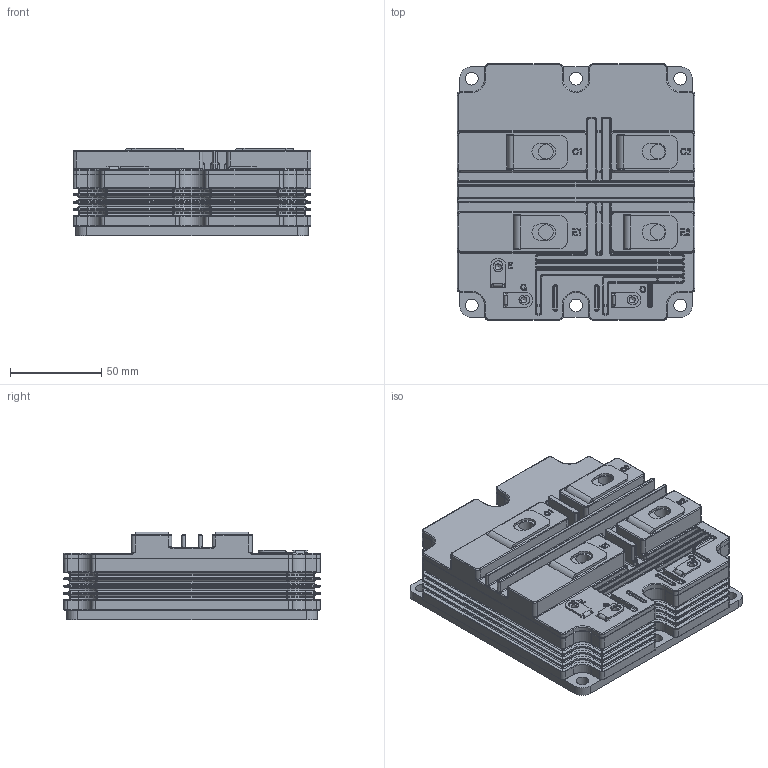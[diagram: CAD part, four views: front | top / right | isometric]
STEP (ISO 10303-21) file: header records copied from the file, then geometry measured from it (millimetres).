
FILE_DESCRIPTION (( 'STEP AP214' ), '1' );
FILE_NAME ('LD-ES-170634-MBN500FH65E2.STEP', '2017-08-25T04:12:53', ( 'Flora110' ), ( '' ), 'SwSTEP 2.0', 'SolidWorks 2010', '' );
FILE_SCHEMA (( 'AUTOMOTIVE_DESIGN' ));
Length unit declared in the file: millimetre
Products named in the file (1): LD-ES-170634-MBN500FH65E2
Bounding box: 130 x 140 x 48 mm (x, y, z)
Volume: 650383 mm3; surface area: 125584.6 mm2
Topology: 1 solids, 12 shells, 2803 faces, 6504 edges, 3746 vertices
Faces by surface type: cylinder 987, bspline 954, plane 862
Full cylindrical faces by diameter (mm): 1.25 x2, 2 x7, 3.1 x4, 3.3 x3, 3.5 x4, 4 x4, 4.5 x4, 6 x4, 7 x13, 8 x4, 9 x4, 17.5 x4
Entity records: 99873 total; most frequent: CARTESIAN_POINT 42088, ORIENTED_EDGE 12680, DIRECTION 11048, EDGE_CURVE 6340, AXIS2_PLACEMENT_3D 3992, VERTEX_POINT 3710, VECTOR 3064, LINE 3064
